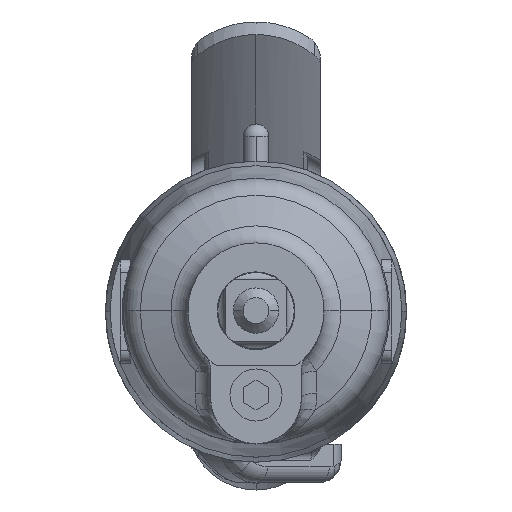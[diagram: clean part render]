
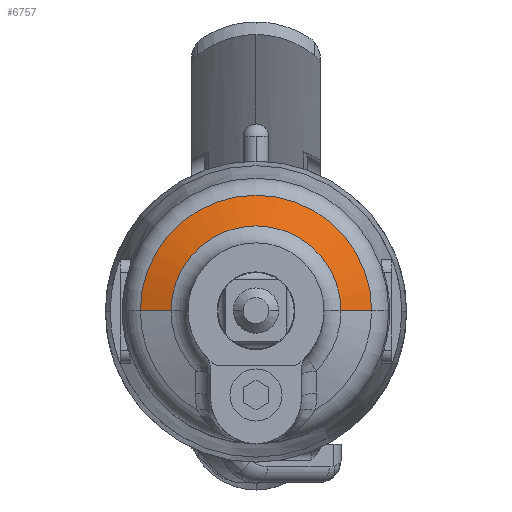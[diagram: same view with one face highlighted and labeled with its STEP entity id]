
A CAD part, top view. The second image highlights one B-rep face of the part: STEP entity #6757.
In plain terms, the highlighted conical face has half-angle 70 degrees and reference radius 20.5 mm.
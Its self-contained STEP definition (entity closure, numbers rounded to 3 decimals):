
#6659 = EDGE_CURVE ( 'NONE', #6660, #6661, #29829, .T. ) ;
#6660 = VERTEX_POINT ( 'NONE', #29888 ) ;
#6661 = VERTEX_POINT ( 'NONE', #29887 ) ;
#6699 = VERTEX_POINT ( 'NONE', #29943 ) ;
#6701 = EDGE_CURVE ( 'NONE', #6714, #6699, #29941, .T. ) ;
#6714 = VERTEX_POINT ( 'NONE', #29957 ) ;
#6731 = ORIENTED_EDGE ( 'NONE', *, *, #6701, .T. ) ;
#6732 = ORIENTED_EDGE ( 'NONE', *, *, #6733, .T. ) ;
#6733 = EDGE_CURVE ( 'NONE', #6699, #6660, #30038, .T. ) ;
#6734 = ORIENTED_EDGE ( 'NONE', *, *, #6659, .T. ) ;
#6735 = ORIENTED_EDGE ( 'NONE', *, *, #6736, .F. ) ;
#6736 = EDGE_CURVE ( 'NONE', #6714, #6661, #30034, .T. ) ;
#6757 = ADVANCED_FACE ( 'NONE', ( #30051 ), #30050, .T. ) ;
#6758 = EDGE_LOOP ( 'NONE', ( #6731, #6732, #6734, #6735 ) ) ;
#29825 = DIRECTION ( 'NONE',  ( 1., 0., 0. ) ) ;
#29826 = DIRECTION ( 'NONE',  ( 0., 0., 1. ) ) ;
#29827 = CARTESIAN_POINT ( 'NONE',  ( 0., 0., -11.682 ) ) ;
#29828 = AXIS2_PLACEMENT_3D ( 'NONE', #29827, #29826, #29825 ) ;
#29829 = CIRCLE ( 'NONE', #29828, 17.868 ) ;
#29887 = CARTESIAN_POINT ( 'NONE',  ( -17.868, 0., -11.682 ) ) ;
#29888 = CARTESIAN_POINT ( 'NONE',  ( 17.868, 0., -11.682 ) ) ;
#29937 = DIRECTION ( 'NONE',  ( -1., 0., 0. ) ) ;
#29938 = DIRECTION ( 'NONE',  ( 0., 0., -1. ) ) ;
#29939 = CARTESIAN_POINT ( 'NONE',  ( 0., 0., -9.958 ) ) ;
#29940 = AXIS2_PLACEMENT_3D ( 'NONE', #29939, #29938, #29937 ) ;
#29941 = CIRCLE ( 'NONE', #29940, 13.132 ) ;
#29943 = CARTESIAN_POINT ( 'NONE',  ( 13.132, 0., -9.958 ) ) ;
#29957 = CARTESIAN_POINT ( 'NONE',  ( -13.132, 0., -9.958 ) ) ;
#30031 = DIRECTION ( 'NONE',  ( -0.94, 0., -0.342 ) ) ;
#30032 = VECTOR ( 'NONE', #30031, 1000. ) ;
#30033 = CARTESIAN_POINT ( 'NONE',  ( -20.5, 0., -12.64 ) ) ;
#30034 = LINE ( 'NONE', #30033, #30032 ) ;
#30035 = DIRECTION ( 'NONE',  ( 0.94, 0., -0.342 ) ) ;
#30036 = VECTOR ( 'NONE', #30035, 1000. ) ;
#30037 = CARTESIAN_POINT ( 'NONE',  ( 20.5, 0., -12.64 ) ) ;
#30038 = LINE ( 'NONE', #30037, #30036 ) ;
#30050 = CONICAL_SURFACE ( 'NONE', #30107, 20.5, 1.222 ) ;
#30051 = FACE_OUTER_BOUND ( 'NONE', #6758, .T. ) ;
#30104 = DIRECTION ( 'NONE',  ( -1., 0., 0. ) ) ;
#30105 = DIRECTION ( 'NONE',  ( 0., 0., -1. ) ) ;
#30106 = CARTESIAN_POINT ( 'NONE',  ( 0., 0., -12.64 ) ) ;
#30107 = AXIS2_PLACEMENT_3D ( 'NONE', #30106, #30105, #30104 ) ;
